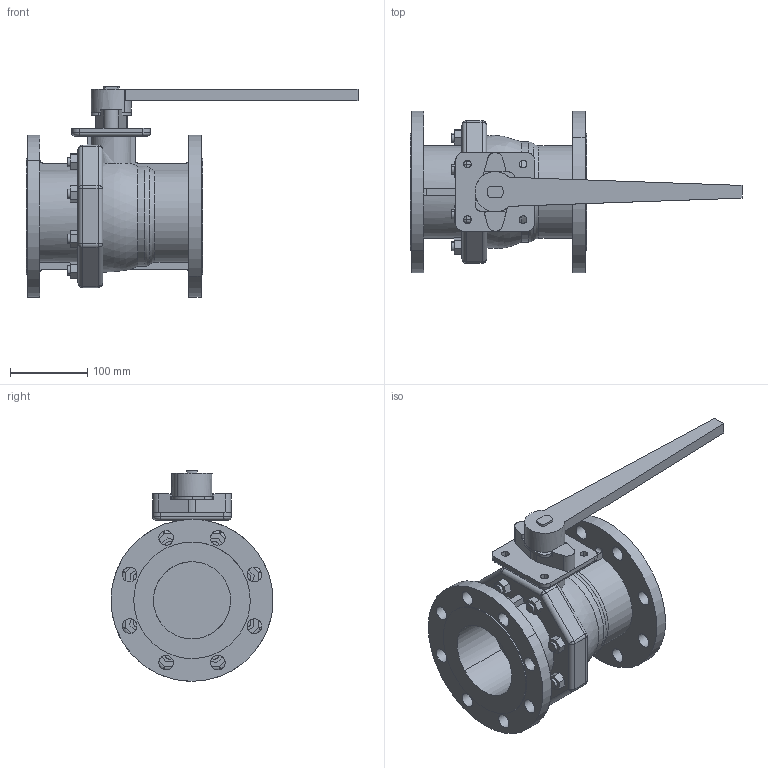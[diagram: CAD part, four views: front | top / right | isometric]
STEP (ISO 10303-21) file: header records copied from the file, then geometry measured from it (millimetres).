
FILE_DESCRIPTION((''),'2;1');
FILE_NAME('','2022-03-23T15:24:54',(''),(''),'','CADfix','');
FILE_SCHEMA(('AUTOMOTIVE_DESIGN { 1 0 10303 214 1 1 1 1 }'));
Length unit declared in the file: millimetre
Products named in the file (2): BLV-2SFJ 100A; BLV-2SF JIS 10K 100A_38
Assembly tree (1 placements, depth 2):
  BLV-2SF JIS 10K 100A_38
    BLV-2SFJ 100A
Bounding box: 430.4 x 210 x 273 mm (x, y, z)
Volume: 3088198 mm3; surface area: 392964 mm2
Topology: 1 solids, 1 shells, 288 faces, 1009 edges, 744 vertices
Faces by surface type: bspline 288
Entity records: 14607 total; most frequent: CARTESIAN_POINT 7909, ORIENTED_EDGE 2018, EDGE_CURVE 1009, STYLED_ITEM 801, VERTEX_POINT 744, B_SPLINE_CURVE_WITH_KNOTS 504, QUASI_UNIFORM_CURVE 435, EDGE_LOOP 353
